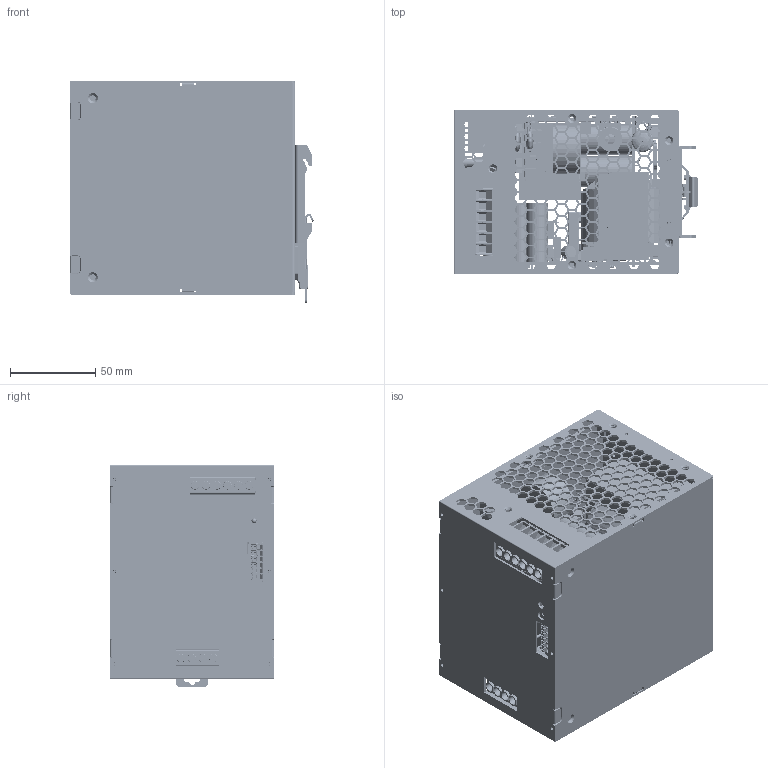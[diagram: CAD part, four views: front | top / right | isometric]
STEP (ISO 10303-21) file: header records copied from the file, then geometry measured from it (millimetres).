
FILE_DESCRIPTION(('Creo Elements/Direct Modeling STEP Export'),'2;1');
FILE_NAME('XTR-960.stp','2025-03-31T13:47:47',(''),(''),'Creo Elements/Direct Modeling STEP processor for AP214 (Solid Model)','Creo Elements/Direct Modeling 19.0G 27-Nov-2017 (C) Parametric Technology GmbH','');
FILE_SCHEMA(('AUTOMOTIVE_DESIGN { 1 0 10303 214 1 1 1 1 }'));
Length unit declared in the file: millimetre
Products named in the file (1551): 挂钩-2; 零件1; 零件2; 零件3; 零件4; 1030844392; R69; R70; 1030848496; R71; R72; 1030848800; R73; 1030844696; R74; R75; 1030848648; R76; R78; R79; R80; 1030848344; R81; R82; R83; R84; 1030844848; R86; Extruded; 910073008; 910072848.1; BC12; 1030842264; C60; C63; 1030842416; C68; C69; 1030850016; C73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
Assembly tree (2322 placements, depth 11):
  XTR-960
    端子台.2
      6P.stp
        DG637-6_35-03P-1Y-00AH_-1059990.ASM
          DG637-6_35-03P-1Y-00AH_-1031820.PRT
      拨码
        DG212R-THR-3.5-05P-1Y-1000A_Z(H).1
        DG212R-THR-3.5-05P-1Y-1000A_Z(H).1.1.1
        DG212R-THR-3.5-05P-1Y-1000A_Z(H).1.1
      电位器
      MPX332H-1
        JP10.1  x3
          1FF2-K15
          1FF2-K15_2343630068.1
          1FF2-K15_3059778957
          623747200
          623747360
      K94
        K94.stp
          K94_STP.ASM
            F1-14050_ASM.ASM
              F1-13720_PRT.PRT
        K94.stp.1
          K94_STP.ASM
            F1-14050_ASM.ASM
              F1-13720_PRT.PRT
        K94.stp.1.1
          K94_STP.ASM
            F1-14050_ASM.ASM
              F1-13720_PRT.PRT
      DUANZI2
        MPX332H-2
        MPX332H-3
    端子台.1
      6P.stp
        DG637-6_35-03P-1Y-00AH_-1059990.ASM
          DG637-6_35-03P-1Y-00AH_-1031820.PRT
      拨码
        DG212R-THR-3.5-05P-1Y-1000A_Z(H).1
        DG212R-THR-3.5-05P-1Y-1000A_Z(H).1.1.1
        DG212R-THR-3.5-05P-1Y-1000A_Z(H).1.1
      电位器
      MPX332H-1
        JP10.1  x3
          1FF2-K15
          1FF2-K15_2343630068.1
          1FF2-K15_3059778957
          623747200
          623747360
      K94
        K94.stp
          K94_STP.ASM
            F1-14050_ASM.ASM
              F1-13720_PRT.PRT
        K94.stp.1
          K94_STP.ASM
            F1-14050_ASM.ASM
              F1-13720_PRT.PRT
        K94.stp.1.1
          K94_STP.ASM
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Bounding box: 143.01 x 96 x 130.2 mm (x, y, z)
Volume: 765917.8 mm3; surface area: 656775.9 mm2
Topology: 2016 solids, 2043 shells, 59737 faces, 156189 edges, 101675 vertices
Faces by surface type: plane 36731, extrusion 11252, cylinder 7979, sphere 1585, bspline 1292, torus 604, cone 264, revolution 30
Entity records: 924059 total; most frequent: CARTESIAN_POINT 236802, ORIENTED_EDGE 123664, DIRECTION 109639, EDGE_CURVE 61976, VECTOR 49257, LINE 47879, VERTEX_POINT 40894, AXIS2_PLACEMENT_3D 30186
